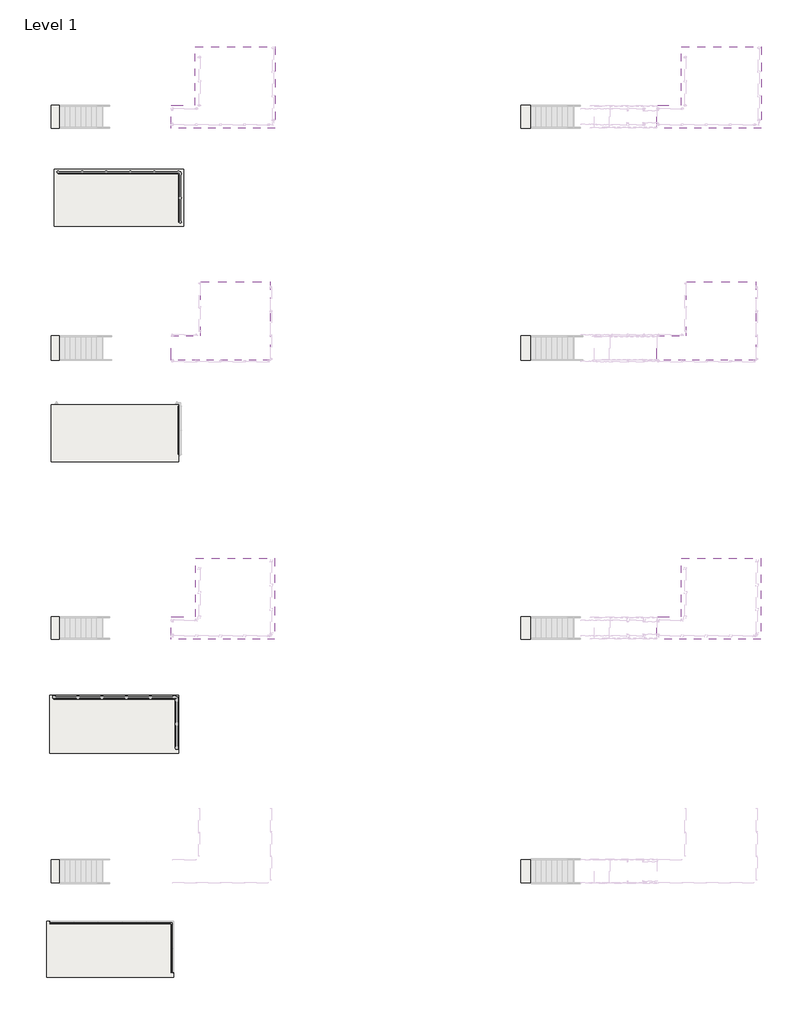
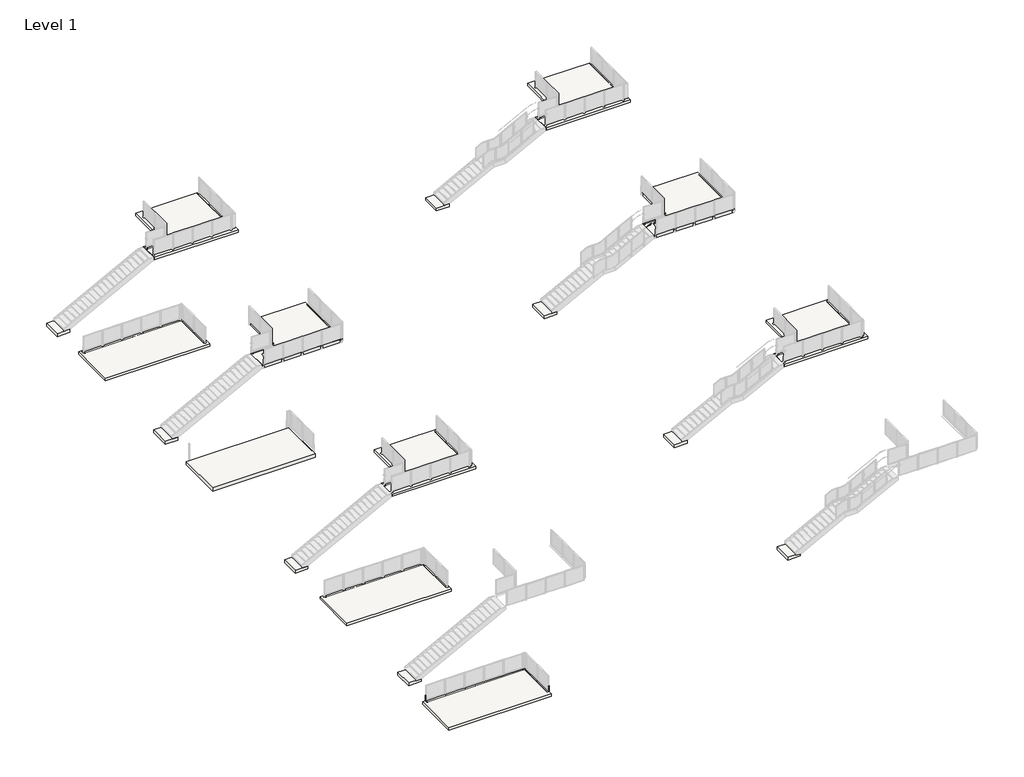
# One storey, part 1 of 37: 18 slabs, 2 proxies.
"""IFC4 building model written with IfcOpenShell, lengths in millimetres."""

from ifc_helpers import new_model, si_unit, frame, origin, place, context, project, spatial, polyline, outline, extrude, transform, mapped, element, save
from components import baluster_end_post_viva_frame_top_mount_welded_steel_channel_f5500c4d

model = new_model("IFC4")

# Units and contexts
model_context = context("Model", 3, world=origin())
ifc_project = project(units=[si_unit("LENGTHUNIT", "METRE", prefix="MILLI")], contexts=[model_context])

# Site, building, storey
site = spatial("IfcSite", under=ifc_project)
building = spatial("IfcBuilding", under=site)
storey = spatial("IfcBuildingStorey", under=building, Name="Level 1", Elevation=0.0)

# Proxies
placement = place(None, origin())
baluster_end_post_viva_frame_top_mount_welded_steel_channel_shape = baluster_end_post_viva_frame_top_mount_welded_steel_channel_f5500c4d(model_context)
element("IfcBuildingElementProxy", 1, Name="Baluster-End-Post-VIVA-FRAME-Top Mount : WELDED STEEL CHANNEL_TOP MOUNT FOLD_STRAIGHT", ObjectType="Baluster-End-Post-VIVA-FRAME-Top Mount : WELDED STEEL CHANNEL_TOP MOUNT FOLD_STRAIGHT", at=placement, inside=storey, context=model_context, shape_type="MappedRepresentation", body=[
    mapped(baluster_end_post_viva_frame_top_mount_welded_steel_channel_shape, transform((-39464.9234675, -33571.9733743, -0.508), x_axis=(-1.0, 0.0, 0.0), y_axis=(0.0, -1.0, 0.0), z_axis=(0.0, 0.0, 1.0))),
])
element("IfcBuildingElementProxy", 2, Name="Baluster-End-Post-VIVA-FRAME-Top Mount : WELDED STEEL CHANNEL_TOP MOUNT FOLD_STRAIGHT", ObjectType="Baluster-End-Post-VIVA-FRAME-Top Mount : WELDED STEEL CHANNEL_TOP MOUNT FOLD_STRAIGHT", at=placement, inside=storey, context=model_context, shape_type="MappedRepresentation", body=[
    mapped(baluster_end_post_viva_frame_top_mount_welded_steel_channel_shape, transform((-33077.7262871, -36149.5299436, -0.508), x_axis=(0.0, 1.0, 0.0), y_axis=(-1.0, 0.0, 0.0), z_axis=(0.0, 0.0, 1.0))),
])

# Slabs
element("IfcSlab", 3, ObjectType="Generic - 6.5\"", at=placement, inside=storey, context=model_context, shape_type="SweptSolid", body=[
    extrude(outline(polyline([(-32428.7068244, 3168.7980519), (-39235.9068244, 3168.7980519), (-39235.9068244, 6165.9980519), (-32428.7068244, 6165.9980519), (-32428.7068244, 3168.7980519)])), frame((0.0, 0.0, -167.4622), z_axis=(0.0, 0.0, 1.0), x_axis=(1.0, 0.0, 0.0)), (0.0, 0.0, 1.0), 167.4622),
])
element("IfcSlab", 4, ObjectType="Generic - 6.5\"", at=placement, inside=storey, context=model_context, shape_type="SweptSolid", body=[
    extrude(outline(polyline([(-32676.2309177, -24592.3461793), (-39483.4309177, -24592.3461793), (-39483.4309177, -21544.3461793), (-32676.2309177, -21544.3461793), (-32676.2309177, -24592.3461793)])), frame((0.0, 0.0, -167.4622), z_axis=(0.0, 0.0, 1.0), x_axis=(1.0, 0.0, 0.0)), (0.0, 0.0, 1.0), 167.4622),
])
element("IfcSlab", 5, ObjectType="Generic - 6.5\"", at=placement, inside=storey, context=model_context, shape_type="SweptSolid", body=[
    extrude(outline(polyline([(-32957.9158871, -36409.3170677), (-39645.7669108, -36409.3170677), (-39645.7669108, -33452.1629743), (-32957.9158871, -33452.1629743), (-32957.9158871, -36409.3170677)])), frame((0.0, 0.0, -167.4622), z_axis=(0.0, 0.0, 1.0), x_axis=(1.0, 0.0, 0.0)), (0.0, 0.0, 1.0), 167.4622),
])
element("IfcSlab", 6, ObjectType="Generic - 6.5\"", at=placement, inside=storey, context=model_context, shape_type="SweptSolid", body=[
    extrude(outline(polyline([(-2012.6813244, -18602.3554387), (-7473.6813244, -18602.3554387), (-7473.6813244, -17402.3554387), (-6176.0715244, -17402.3554387), (-6176.0715244, -14335.1554387), (-2012.6813244, -14335.1554387), (-2012.6813244, -18602.3554387)])), frame((0.0, 0.0, 2880.5378), z_axis=(0.0, 0.0, 1.0), x_axis=(1.0, 0.0, 0.0)), (0.0, 0.0, 1.0), 167.4622),
])
element("IfcSlab", 7, ObjectType="Generic - 6.5\"", at=placement, inside=storey, context=model_context, shape_type="SweptSolid", body=[
    extrude(outline(polyline([(-1987.2813244, 8326.1937722), (-7473.6813244, 8326.1937722), (-7473.6813244, 9526.1937722), (-6201.4715244, 9526.1937722), (-6201.4715244, 12618.7937722), (-1987.2813244, 12618.7937722), (-1987.2813244, 8326.1937722)])), frame((0.0, 0.0, 2880.5378), z_axis=(0.0, 0.0, 1.0), x_axis=(1.0, 0.0, 0.0)), (0.0, 0.0, 1.0), 167.4622),
])
element("IfcSlab", 8, ObjectType="Generic - 6.5\"", at=placement, inside=storey, context=model_context, shape_type="SweptSolid", body=[
    extrude(outline(polyline([(-27615.8813244, -18602.3554387), (-33076.8813244, -18602.3554387), (-33076.8813244, -17402.3554387), (-31779.2715244, -17402.3554387), (-31779.2715244, -14335.1554387), (-27615.8813244, -14335.1554387), (-27615.8813244, -18602.3554387)])), frame((0.0, 0.0, 2880.5378), z_axis=(0.0, 0.0, 1.0), x_axis=(1.0, 0.0, 0.0)), (0.0, 0.0, 1.0), 167.4622),
])
element("IfcSlab", 9, ObjectType="Generic - 6.5\"", at=placement, inside=storey, context=model_context, shape_type="SweptSolid", body=[
    extrude(outline(polyline([(-27590.4813244, 8326.1937722), (-33076.8813244, 8326.1937722), (-33076.8813244, 9526.1937722), (-31804.6715244, 9526.1937722), (-31804.6715244, 12618.7937722), (-27590.4813244, 12618.7937722), (-27590.4813244, 8326.1937722)])), frame((0.0, 0.0, 2880.5378), z_axis=(0.0, 0.0, 1.0), x_axis=(1.0, 0.0, 0.0)), (0.0, 0.0, 1.0), 167.4622),
])
element("IfcSlab", 10, ObjectType="Generic - 7 3/4\"", at=placement, inside=storey, context=model_context, shape_type="SweptSolid", body=[
    extrude(outline(polyline([(-38563.2813244, 8326.1937722), (-39401.4813244, 8326.1937722), (-39401.4813244, 9526.1937722), (-38563.2813244, 9526.1937722), (-38563.2813244, 8326.1937722)])), frame((0.0, 0.0, -196.088), z_axis=(0.0, 0.0, 1.0), x_axis=(1.0, 0.0, 0.0)), (0.0, 0.0, 1.0), 196.088),
])
element("IfcSlab", 11, ObjectType="Generic - 7 3/4\"", at=placement, inside=storey, context=model_context, shape_type="SweptSolid", body=[
    extrude(outline(polyline([(-38607.7313244, -3912.9362112), (-39407.8313244, -3912.9362112), (-39407.8313244, -2611.3362112), (-38607.7313244, -2611.3362112), (-38607.7313244, -3912.9362112)])), frame((0.0, 0.0, -196.088), z_axis=(0.0, 0.0, 1.0), x_axis=(1.0, 0.0, 0.0)), (0.0, 0.0, 1.0), 196.088),
])
element("IfcSlab", 12, ObjectType="Generic - 7 3/4\"", at=placement, inside=storey, context=model_context, shape_type="SweptSolid", body=[
    extrude(outline(polyline([(-38569.6313244, -18602.3554387), (-39407.8313244, -18602.3554387), (-39407.8313244, -17402.3554387), (-38569.6313244, -17402.3554387), (-38569.6313244, -18602.3554387)])), frame((0.0, 0.0, -196.088), z_axis=(0.0, 0.0, 1.0), x_axis=(1.0, 0.0, 0.0)), (0.0, 0.0, 1.0), 196.088),
])
element("IfcSlab", 13, ObjectType="Generic - 7 3/4\"", at=placement, inside=storey, context=model_context, shape_type="SweptSolid", body=[
    extrude(outline(polyline([(-38569.6313244, -31422.1775116), (-39407.8313244, -31422.1775116), (-39407.8313244, -30222.1775116), (-38569.6313244, -30222.1775116), (-38569.6313244, -31422.1775116)])), frame((0.0, 0.0, -196.088), z_axis=(0.0, 0.0, 1.0), x_axis=(1.0, 0.0, 0.0)), (0.0, 0.0, 1.0), 196.088),
])
element("IfcSlab", 14, ObjectType="Generic - 7 3/4\"", at=placement, inside=storey, context=model_context, shape_type="SweptSolid", body=[
    extrude(outline(polyline([(-13806.0954208, 8326.1937722), (-14644.2954208, 8326.1937722), (-14644.2954208, 9526.1937722), (-13806.0954208, 9526.1937722), (-13806.0954208, 8326.1937722)])), frame((0.0, 0.0, -196.088), z_axis=(0.0, 0.0, 1.0), x_axis=(1.0, 0.0, 0.0)), (0.0, 0.0, 1.0), 196.088),
])
element("IfcSlab", 15, ObjectType="Generic - 7 3/4\"", at=placement, inside=storey, context=model_context, shape_type="SweptSolid", body=[
    extrude(outline(polyline([(-13850.5454208, -3912.9362112), (-14650.6454208, -3912.9362112), (-14650.6454208, -2611.3362112), (-13850.5454208, -2611.3362112), (-13850.5454208, -3912.9362112)])), frame((0.0, 0.0, -196.088), z_axis=(0.0, 0.0, 1.0), x_axis=(1.0, 0.0, 0.0)), (0.0, 0.0, 1.0), 196.088),
])
element("IfcSlab", 16, ObjectType="Generic - 7 3/4\"", at=placement, inside=storey, context=model_context, shape_type="SweptSolid", body=[
    extrude(outline(polyline([(-13812.4454208, -18602.3554387), (-14650.6454208, -18602.3554387), (-14650.6454208, -17402.3554387), (-13812.4454208, -17402.3554387), (-13812.4454208, -18602.3554387)])), frame((0.0, 0.0, -196.088), z_axis=(0.0, 0.0, 1.0), x_axis=(1.0, 0.0, 0.0)), (0.0, 0.0, 1.0), 196.088),
])
element("IfcSlab", 17, ObjectType="Generic - 7 3/4\"", at=placement, inside=storey, context=model_context, shape_type="SweptSolid", body=[
    extrude(outline(polyline([(-13812.4454208, -31422.1775116), (-14650.6454208, -31422.1775116), (-14650.6454208, -30222.1775116), (-13812.4454208, -30222.1775116), (-13812.4454208, -31422.1775116)])), frame((0.0, 0.0, -196.088), z_axis=(0.0, 0.0, 1.0), x_axis=(1.0, 0.0, 0.0)), (0.0, 0.0, 1.0), 196.088),
])
element("IfcSlab", 18, ObjectType="Generic - 9\"", at=placement, inside=storey, context=model_context, shape_type="SweptSolid", body=[
    extrude(outline(polyline([(-32684.7161091, -9234.027386), (-39390.3161091, -9234.027386), (-39390.3161091, -6236.827386), (-32684.7161091, -6236.827386), (-32684.7161091, -9234.027386)])), frame((0.0, 0.0, -228.6), z_axis=(0.0, 0.0, 1.0), x_axis=(1.0, 0.0, 0.0)), (0.0, 0.0, 1.0), 228.6),
])
element("IfcSlab", 19, ObjectType="Generic - 9\"", at=placement, inside=storey, context=model_context, shape_type="SweptSolid", body=[
    extrude(outline(polyline([(-2258.2956755, -3912.9362112), (-7473.6813244, -3912.9362112), (-7473.6813244, -2611.3362112), (-5917.4819985, -2611.3362112), (-5917.4819985, 233.4637888), (-2258.2956755, 233.4637888), (-2258.2956755, -3912.9362112)])), frame((0.0, 0.0, 2819.4), z_axis=(0.0, 0.0, 1.0), x_axis=(1.0, 0.0, 0.0)), (0.0, 0.0, 1.0), 228.6),
])
element("IfcSlab", 20, ObjectType="Generic - 9\"", at=placement, inside=storey, context=model_context, shape_type="SweptSolid", body=[
    extrude(outline(polyline([(-27861.4956755, -3912.9362112), (-33076.8813244, -3912.9362112), (-33076.8813244, -2611.3362112), (-31520.6819985, -2611.3362112), (-31520.6819985, 233.4637888), (-27861.4956755, 233.4637888), (-27861.4956755, -3912.9362112)])), frame((0.0, 0.0, 2819.4), z_axis=(0.0, 0.0, 1.0), x_axis=(1.0, 0.0, 0.0)), (0.0, 0.0, 1.0), 228.6),
])

save(model, "model.ifc")
